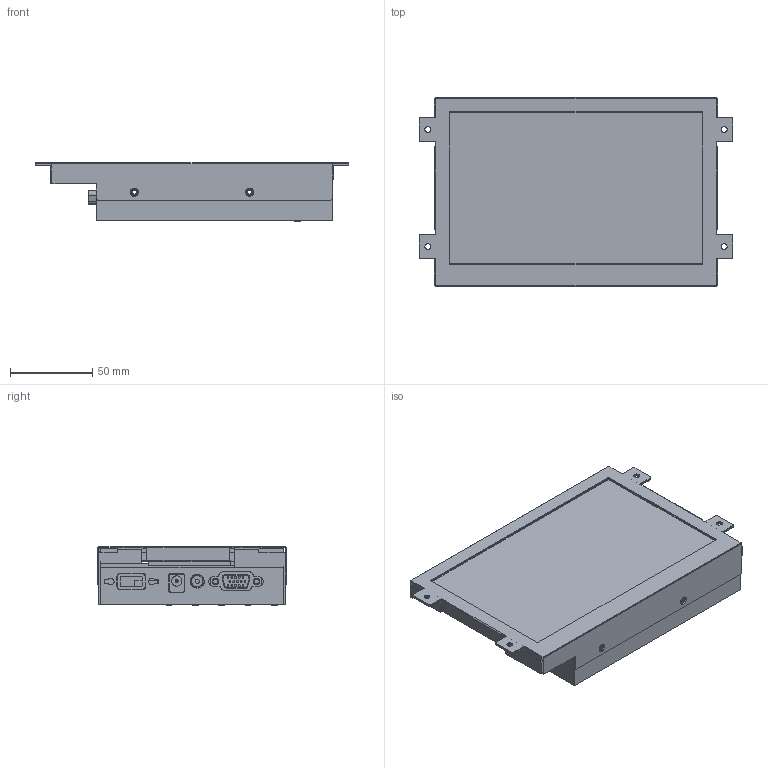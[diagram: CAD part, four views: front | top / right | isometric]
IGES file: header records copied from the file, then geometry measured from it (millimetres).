
Global section: file name: 315-M070C-A-3D; native system: AutoCAD 2019 – 繁體中文 (Traditional Chinese),62HAutode; preprocessor: sk Translation Framework DWG producer (atf_dwg_producer); organization: unknown; date: 20211028.093847; units: millimetre
Bounding box: 190 x 114.6 x 35.5 mm (x, y, z)
Volume: 363682 mm3; surface area: 273248.9 mm2
Topology: 9 solids, 9 shells, 1232 faces, 3221 edges, 2127 vertices
Faces by surface type: bspline 1232
